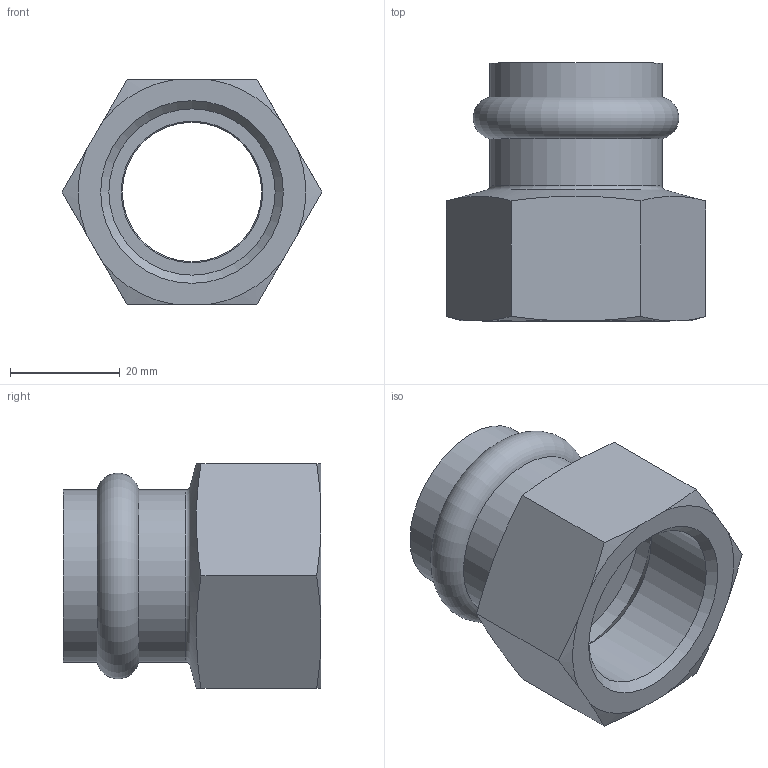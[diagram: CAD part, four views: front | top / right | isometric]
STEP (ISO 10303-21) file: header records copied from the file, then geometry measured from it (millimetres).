
FILE_DESCRIPTION(/* description */ (''),/* implementation_level */ '2;1');
FILE_NAME(/* name */ 'C:\Users\Vault\Desktop\Articoli_INOXPRES UNIKO\190_INOXPRES_UNIKO\190100028U_Inoxpres_Uniko.stp',/* time_stamp */ '2022-10-06T11:31:06+02:00',/* author */ ('Vault'),/* organization */ ('Raccorderie metalliche s.p.a. '),/* preprocessor_version */ 'ST-DEVELOPER v18.1',/* originating_system */ 'Autodesk Inventor 2020',/* authorisation */ 'Raccorderie metalliche s.p.a. ');
FILE_SCHEMA (('AUTOMOTIVE_DESIGN { 1 0 10303 214 3 1 1 }'));
Length unit declared in the file: millimetre
Products named in the file (1): 190100028V_Inoxpres_Uniko
Bounding box: 47.34 x 47 x 41 mm (x, y, z)
Volume: 21461.4 mm3; surface area: 12418.1 mm2
Topology: 1 solids, 1 shells, 34 faces, 93 edges, 63 vertices
Faces by surface type: cone 13, plane 10, cylinder 7, torus 4
Full cylindrical faces by diameter (mm): 25.4 x1, 28.4 x2, 30.3 x1, 31.4 x2, 35 x1
Entity records: 1135 total; most frequent: CARTESIAN_POINT 229, DIRECTION 192, ORIENTED_EDGE 186, EDGE_CURVE 93, AXIS2_PLACEMENT_3D 83, VERTEX_POINT 63, CIRCLE 48, EDGE_LOOP 38
